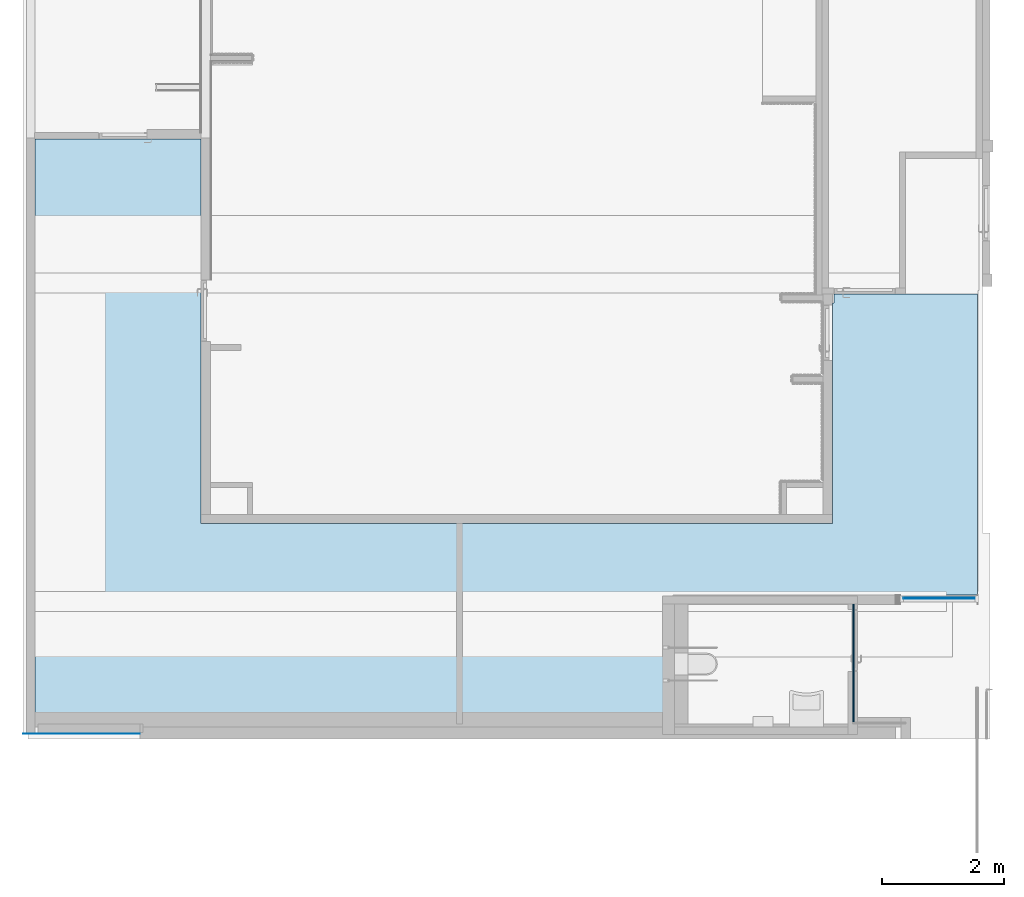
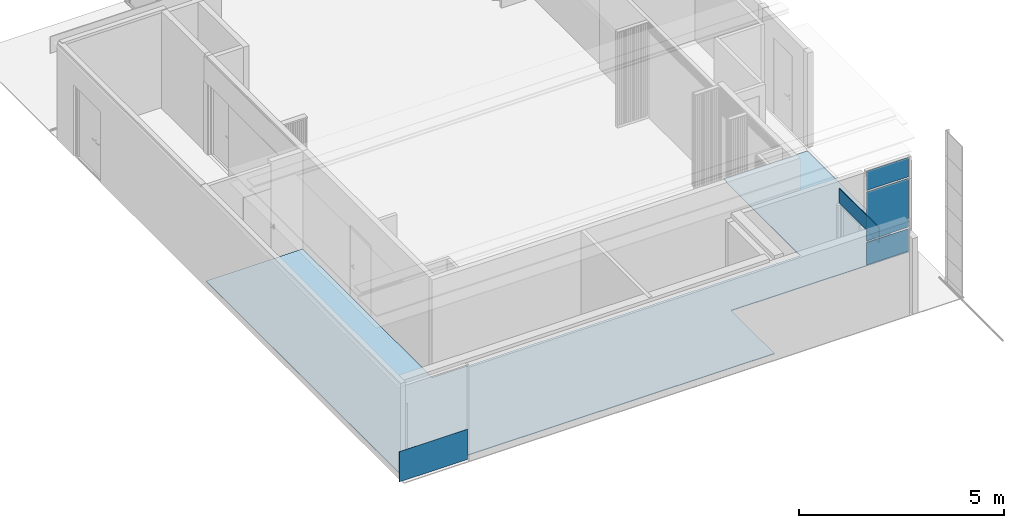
# One storey, part 10 of 37: 8 plates, 1 slab, 4 elements without a shape of their own.
"""IFC2X3 building model written with IfcOpenShell, lengths in millimetres."""

from ifc_helpers import new_model, entity, si_unit, converted_unit, derived_unit, direction, frame, origin, origin_with_axes, origin_2d_with_axis, place, context, subcontext, project, spatial, polyline, rectangle, outline, extrude, source, transform, mapped, material, layer, layer_set, layer_usage, type_object, element, aggregate, save


model = new_model("IFC2X3")

# Units and contexts
model_context = context("Model", 3, precision=0.01, world=frame((0.0, 4.29681676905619e-09, 0.0)), true_north=direction((4.01073788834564e-13, 1.0)))
plan_context = context("Plan", 3, precision=0.01, world=frame((0.0, 4.29681676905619e-09, 0.0)), true_north=direction((4.01073788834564e-13, 1.0)))
body_context = subcontext(model_context, "Body", "Model", "MODEL_VIEW")
ifc_project = project(units=[converted_unit("PLANEANGLEUNIT", "DEGREE", entity("IfcPositiveLengthMeasure", 0.0174532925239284), si_unit("PLANEANGLEUNIT", "RADIAN"), dimensions=[0, 0, 0, 0, 0, 0, 0]), si_unit("AREAUNIT", "SQUARE_METRE"), si_unit("LENGTHUNIT", "METRE", prefix="MILLI"), si_unit("MASSUNIT", "GRAM", prefix="KILO"), si_unit("POWERUNIT", "WATT"), si_unit("PRESSUREUNIT", "PASCAL"), si_unit("FORCEUNIT", "NEWTON", prefix="KILO"), si_unit("ELECTRICVOLTAGEUNIT", "VOLT"), si_unit("ELECTRICCURRENTUNIT", "AMPERE"), si_unit("THERMODYNAMICTEMPERATUREUNIT", "DEGREE_CELSIUS"), si_unit("TIMEUNIT", "SECOND"), si_unit("VOLUMEUNIT", "CUBIC_METRE"), derived_unit("LINEARVELOCITYUNIT", [(si_unit("LENGTHUNIT", "METRE"), 1), (si_unit("TIMEUNIT", "SECOND"), -1)]), derived_unit("VOLUMETRICFLOWRATEUNIT", [(si_unit("VOLUMEUNIT", "CUBIC_METRE"), 1), (si_unit("TIMEUNIT", "SECOND"), -1)]), derived_unit("THERMALTRANSMITTANCEUNIT", [(si_unit("POWERUNIT", "WATT"), 1), (si_unit("THERMODYNAMICTEMPERATUREUNIT", "KELVIN"), -1), (si_unit("AREAUNIT", "SQUARE_METRE"), -1)]), derived_unit("SOUNDPRESSUREUNIT", [(si_unit("PRESSUREUNIT", "PASCAL"), 1)])], contexts=[model_context, plan_context])

# Site, building, storey
site_placement = place(None, origin_with_axes())
site = spatial("IfcSite", under=ifc_project, at=site_placement, Name="ENGM", CompositionType="ELEMENT")
building_placement = place(site_placement, origin_with_axes())
building = spatial("IfcBuilding", under=site, at=building_placement, Name="TS", CompositionType="ELEMENT")
storey_placement = place(building_placement, frame((0.0, 0.0, 210900.0), z_axis=(0.0, 0.0, 1.0), x_axis=(1.0, 0.0, 0.0)))
storey = spatial("IfcBuildingStorey", under=building, at=storey_placement, Name="Nivå F", CompositionType="ELEMENT", Elevation=210900.0)

# Curtain wall, plate
curtain_wall_type_1 = type_object("IfcCurtainWallType", Name="Curtain Wall:A242 - IGV 50 x 60mm (Glass 10mm)", PredefinedType="NOTDEFINED")
curtain_wall_1_placement = place(storey_placement, frame((0.0, 0.0, -210900.0), z_axis=(0.0, 0.0, 1.0), x_axis=(1.0, 0.0, 0.0)))
curtain_wall_1 = element("IfcCurtainWall", 1, at=curtain_wall_1_placement, inside=storey, type_object=curtain_wall_type_1, Name="Curtain Wall:A242 - IGV 50 x 60mm (Glass 10mm)", ObjectType="Curtain Wall:A242 - IGV 50 x 60mm (Glass 10mm)")
ifc_material_1 = material(Name="Glass(Avinor)")
plate_type_1 = type_object("IfcPlateType", Name="System Panel:A245 - Glass - 10mm", PredefinedType="CURTAIN_PANEL", material=ifc_material_1)
shared_shape_1 = source(origin(), body_context, "Body", "SweptSolid", [
    extrude(rectangle(XDim=10.0, YDim=1174.01249999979, at=origin_2d_with_axis()), frame((0.0, 0.0, 0.0), z_axis=(0.0, 0.0, 1.0), x_axis=(0.0, 1.0, 0.0)), (0.0, 0.0, 1.0), 665.000000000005),
])
plate_1_placement = place(curtain_wall_1_placement, frame((535482.993749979, 443085.000000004, 210960.0), z_axis=(0.0, 0.0, 1.0), x_axis=(1.0, 0.0, 0.0)))
plate_1 = element("IfcPlate", 2, at=plate_1_placement, type_object=plate_type_1, material=ifc_material_1, Name="System Panel:A245 - Glass - 10mm", ObjectType="System Panel:A245 - Glass - 10mm", context=body_context, shape_type="MappedRepresentation", body=[
    mapped(shared_shape_1, transform((0.0, 0.0, 0.0), scale=1.0)),
])

curtain_wall_2_placement = place(storey_placement, frame((0.0, 0.0, -210900.0), z_axis=(0.0, 0.0, 1.0), x_axis=(1.0, 0.0, 0.0)))
curtain_wall_2 = element("IfcCurtainWall", 3, at=curtain_wall_2_placement, inside=storey, type_object=curtain_wall_type_1, Name="Curtain Wall:A242 - IGV 50 x 60mm (Glass 10mm)", ObjectType="Curtain Wall:A242 - IGV 50 x 60mm (Glass 10mm)")
plate_2_placement = place(curtain_wall_2_placement, frame((535482.993749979, 443085.000000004, 210960.0), z_axis=(0.0, 0.0, 1.0), x_axis=(1.0, 0.0, 0.0)))
plate_2 = element("IfcPlate", 4, at=plate_2_placement, type_object=plate_type_1, material=ifc_material_1, Name="System Panel:A245 - Glass - 10mm", ObjectType="System Panel:A245 - Glass - 10mm", context=body_context, shape_type="MappedRepresentation", body=[
    mapped(shared_shape_1, transform((0.0, 0.0, 0.0), scale=1.0)),
])

# Plate
plate_type_2 = type_object("IfcPlateType", Name="System Panel:A245 - Glass - 10mm", PredefinedType="CURTAIN_PANEL", material=ifc_material_1)
shared_shape_2 = source(origin(), body_context, "Body", "SweptSolid", [
    extrude(rectangle(XDim=10.0, YDim=1174.01249999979, at=origin_2d_with_axis()), frame((0.0, 0.0, 0.0), z_axis=(0.0, 0.0, 1.0), x_axis=(0.0, 1.0, 0.0)), (0.0, 0.0, 1.0), 1449.99999999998),
])
plate_3_placement = place(curtain_wall_1_placement, frame((535482.993749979, 443085.000000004, 211675.0), z_axis=(0.0, 0.0, 1.0), x_axis=(1.0, 0.0, 0.0)))
plate_3 = element("IfcPlate", 5, at=plate_3_placement, type_object=plate_type_2, material=ifc_material_1, Name="System Panel:A245 - Glass - 10mm", ObjectType="System Panel:A245 - Glass - 10mm", context=body_context, shape_type="MappedRepresentation", body=[
    mapped(shared_shape_2, transform((0.0, 0.0, 0.0), scale=1.0)),
])

plate_4_placement = place(curtain_wall_2_placement, frame((535482.993749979, 443085.000000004, 211675.0), z_axis=(0.0, 0.0, 1.0), x_axis=(1.0, 0.0, 0.0)))
plate_4 = element("IfcPlate", 6, at=plate_4_placement, type_object=plate_type_2, material=ifc_material_1, Name="System Panel:A245 - Glass - 10mm", ObjectType="System Panel:A245 - Glass - 10mm", context=body_context, shape_type="MappedRepresentation", body=[
    mapped(shared_shape_2, transform((0.0, 0.0, 0.0), scale=1.0)),
])

plate_type_3 = type_object("IfcPlateType", Name="System Panel:A245 - Glass - 10mm", PredefinedType="CURTAIN_PANEL", material=ifc_material_1)
shared_shape_3 = source(origin(), body_context, "Body", "SweptSolid", [
    extrude(rectangle(XDim=10.0, YDim=1174.01249999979, at=origin_2d_with_axis()), frame((0.0, 0.0, 0.0), z_axis=(0.0, 0.0, 1.0), x_axis=(0.0, 1.0, 0.0)), (0.0, 0.0, 1.0), 574.999999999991),
])
plate_5_placement = place(curtain_wall_1_placement, frame((535482.993749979, 443085.000000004, 213175.0), z_axis=(0.0, 0.0, 1.0), x_axis=(1.0, 0.0, 0.0)))
plate_5 = element("IfcPlate", 7, at=plate_5_placement, type_object=plate_type_3, material=ifc_material_1, Name="System Panel:A245 - Glass - 10mm", ObjectType="System Panel:A245 - Glass - 10mm", context=body_context, shape_type="MappedRepresentation", body=[
    mapped(shared_shape_3, transform((0.0, 0.0, 0.0), scale=1.0)),
])

aggregate(curtain_wall_1, [plate_1, plate_3, plate_5])

plate_6_placement = place(curtain_wall_2_placement, frame((535482.993749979, 443085.000000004, 213175.0), z_axis=(0.0, 0.0, 1.0), x_axis=(1.0, 0.0, 0.0)))
plate_6 = element("IfcPlate", 8, at=plate_6_placement, type_object=plate_type_3, material=ifc_material_1, Name="System Panel:A245 - Glass - 10mm", ObjectType="System Panel:A245 - Glass - 10mm", context=body_context, shape_type="MappedRepresentation", body=[
    mapped(shared_shape_3, transform((0.0, 0.0, 0.0), scale=1.0)),
])

aggregate(curtain_wall_2, [plate_2, plate_4, plate_6])

# Curtain wall, plate
curtain_wall_type_2 = type_object("IfcCurtainWallType", Name="Curtain Wall:A242 - IGV - Glass - 20mm", PredefinedType="NOTDEFINED")
curtain_wall_3_placement = place(storey_placement, frame((0.0, 0.0, -210900.0), z_axis=(0.0, 0.0, 1.0), x_axis=(1.0, 0.0, 0.0)))
curtain_wall_3 = element("IfcCurtainWall", 9, at=curtain_wall_3_placement, inside=storey, type_object=curtain_wall_type_2, Name="Curtain Wall:A242 - IGV - Glass - 20mm", ObjectType="Curtain Wall:A242 - IGV - Glass - 20mm")
plate_type_4 = type_object("IfcPlateType", Name="System Panel:A245 - Glass - 20 mm", PredefinedType="CURTAIN_PANEL", material=ifc_material_1)
shared_shape_4 = source(origin(), body_context, "Body", "SweptSolid", [
    extrude(rectangle(XDim=20.0, YDim=1934.0000000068, at=origin_2d_with_axis()), frame((0.0, 10.0, 0.0), z_axis=(0.0, 0.0, 1.0), x_axis=(0.0, 1.0, 0.0)), (0.0, 0.0, 1.0), 440.000000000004),
])
plate_7_placement = place(curtain_wall_3_placement, frame((534067.987499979, 442017.999999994, 213150.0), z_axis=(0.0, 0.0, 1.0), x_axis=(0.0, -1.0, 0.0)))
plate_7 = element("IfcPlate", 10, at=plate_7_placement, type_object=plate_type_4, material=ifc_material_1, Name="System Panel:A245 - Glass - 20 mm", ObjectType="System Panel:A245 - Glass - 20 mm", context=body_context, shape_type="MappedRepresentation", body=[
    mapped(shared_shape_4, transform((0.0, 0.0, 0.0), scale=1.0)),
])
aggregate(curtain_wall_3, [plate_7])

curtain_wall_type_3 = type_object("IfcCurtainWallType", Name="Curtain Wall:A245 - IMK - Metal Kledning 3mm", PredefinedType="NOTDEFINED")
curtain_wall_4_placement = place(storey_placement, frame((0.0, 0.0, -210900.0), z_axis=(0.0, 0.0, 1.0), x_axis=(1.0, 0.0, 0.0)))
curtain_wall_4 = element("IfcCurtainWall", 11, at=curtain_wall_4_placement, inside=storey, type_object=curtain_wall_type_3, Name="Curtain Wall:A245 - IMK - Metal Kledning 3mm", ObjectType="Curtain Wall:A245 - IMK - Metal Kledning 3mm")
ifc_material_2 = material(Name="T2_Metal_Aluminium")
plate_type_5 = type_object("IfcPlateType", Name="System Panel:A245 - KL-M01 - Veggkledning metallplate plan", PredefinedType="CURTAIN_PANEL", material=ifc_material_2)
shared_shape_5 = source(origin(), body_context, "Body", "SweptSolid", [
    extrude(rectangle(XDim=3.0, YDim=1913.99999999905, at=origin_2d_with_axis()), frame((0.0, 1.5, 0.0), z_axis=(0.0, 0.0, 1.0), x_axis=(0.0, 1.0, 0.0)), (0.0, 0.0, 1.0), 900.000000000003),
])
plate_8_placement = place(curtain_wall_4_placement, frame((521420.500000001, 440865.999999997, 210900.0), z_axis=(0.0, 0.0, 1.0), x_axis=(-1.0, 0.0, 0.0)))
plate_8 = element("IfcPlate", 12, at=plate_8_placement, type_object=plate_type_5, material=ifc_material_2, Name="System Panel:A245 - KL-M01 - Veggkledning metallplate plan", ObjectType="System Panel:A245 - KL-M01 - Veggkledning metallplate plan", context=body_context, shape_type="MappedRepresentation", body=[
    mapped(shared_shape_5, transform((0.0, 0.0, 0.0), scale=1.0)),
])
aggregate(curtain_wall_4, [plate_8])

# Slab
ifc_material_3 = material(Name="T2_Naturstein - Skiffer- Tilfeldig mønster2")
ifc_layer = layer(ifc_material_3, 20.0)
ifc_layer_set = layer_set([ifc_layer], Name="Floor:A254  - Naturstein gulv Tilfeldig mønster")
ifc_layer_usage = layer_usage(ifc_layer_set, "AXIS3", "POSITIVE", 0.0)
slab_type = type_object("IfcSlabType", Name="Floor:A254  - Naturstein gulv Tilfeldig mønster", PredefinedType="FLOOR", material=ifc_layer_set)
slab_placement = place(storey_placement, origin_with_axes())
element("IfcSlab", 13, at=slab_placement, inside=storey, type_object=slab_type, material=ifc_layer_usage, Name="Floor:A254  - Naturstein gulv Tilfeldig mønster", ObjectType="Floor:A254  - Naturstein gulv Tilfeldig mønster", PredefinedType="FLOOR", context=body_context, shape_type="SweptSolid", body=[
    extrude(outline(polyline([(-4823.33333333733, -9137.58958332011), (4769.16666667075, -9137.58958332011), (4769.16666667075, -6414.08958332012), (-1540.83333332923, -6414.08958332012), (-1540.83333332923, 3943.94791665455), (2079.66666666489, 3943.94791665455), (2079.66666666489, 3964.41041665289), (2228.66666666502, 3964.41041665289), (2228.66666666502, 6321.91041665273), (-2713.33333333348, 6321.91041665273), (-2713.33333333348, 1321.41041667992), (-4823.33333333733, 1321.41041667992), (-4823.33333333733, -9137.58958332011)])), frame((529793.589583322, 445848.333333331, 0.0), z_axis=(0.0, 0.0, -1.0), x_axis=(0.0, 1.0, 0.0)), (0.0, 0.0, 1.0), 19.9999999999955),
])

save(model, "model.ifc")
